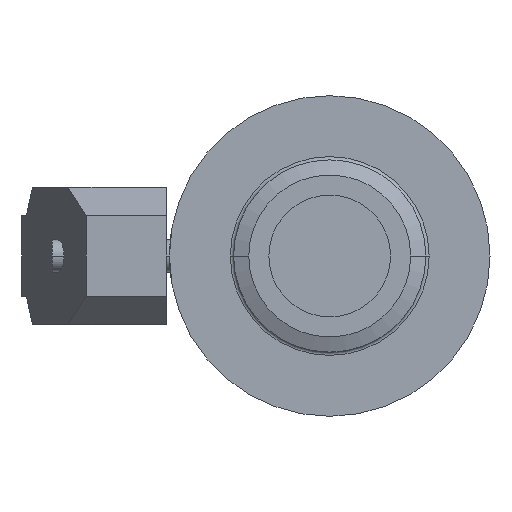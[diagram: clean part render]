
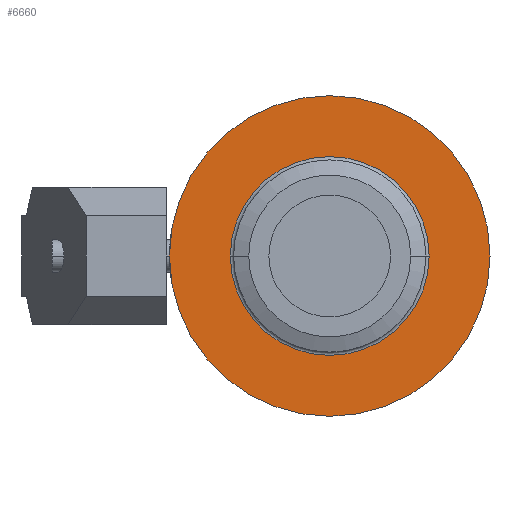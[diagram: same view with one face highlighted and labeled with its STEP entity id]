
A CAD part, left-side view. The second image highlights one B-rep face of the part: STEP entity #6660.
In plain terms, the highlighted planar face has unit normal (-1, 0, 0).
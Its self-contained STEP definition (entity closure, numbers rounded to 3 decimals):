
#100=CARTESIAN_POINT('',(-290.847,269.705,0.));
#110=VERTEX_POINT('',#100);
#160=CARTESIAN_POINT('',(-290.847,319.705,0.));
#170=DIRECTION('',(1.,0.,0.));
#180=DIRECTION('',(0.,1.,0.));
#190=AXIS2_PLACEMENT_3D('',#160,#170,#180);
#200=CIRCLE('',#190,50.);
#210=CARTESIAN_POINT('',(-290.847,369.705,
0.));
#220=VERTEX_POINT('',#210);
#230=EDGE_CURVE('',#220,#110,#200,.T.);
#6410=CARTESIAN_POINT('',(-290.847,367.355,0.));
#6420=DIRECTION('',(-1.,0.,0.));
#6430=DIRECTION('',(0.,-1.,0.));
#6440=AXIS2_PLACEMENT_3D('',#6410,#6420,#6430);
#6450=PLANE('',#6440);
#6460=CARTESIAN_POINT('',(-290.847,319.705,0.));
#6470=DIRECTION('',(1.,0.,0.));
#6480=DIRECTION('',(0.,1.,0.));
#6490=AXIS2_PLACEMENT_3D('',#6460,#6470,#6480);
#6500=CIRCLE('',#6490,31.);
#6510=CARTESIAN_POINT('',(-290.847,350.705,0.));
#6520=VERTEX_POINT('',#6510);
#6530=CARTESIAN_POINT('',(-290.847,288.705,0.));
#6540=VERTEX_POINT('',#6530);
#6550=EDGE_CURVE('',#6520,#6540,#6500,.T.);
#6560=ORIENTED_EDGE('',*,*,#6550,.T.);
#6570=EDGE_CURVE('',#6540,#6520,#6500,.T.);
#6580=ORIENTED_EDGE('',*,*,#6570,.T.);
#6590=EDGE_LOOP('',(#6580,#6560));
#6600=FACE_BOUND('',#6590,.T.);
#6610=ORIENTED_EDGE('',*,*,#230,.F.);
#6620=EDGE_CURVE('',#110,#220,#200,.T.);
#6630=ORIENTED_EDGE('',*,*,#6620,.F.);
#6640=EDGE_LOOP('',(#6630,#6610));
#6650=FACE_OUTER_BOUND('',#6640,.T.);
#6660=ADVANCED_FACE('',(#6600,#6650),#6450,.T.);
